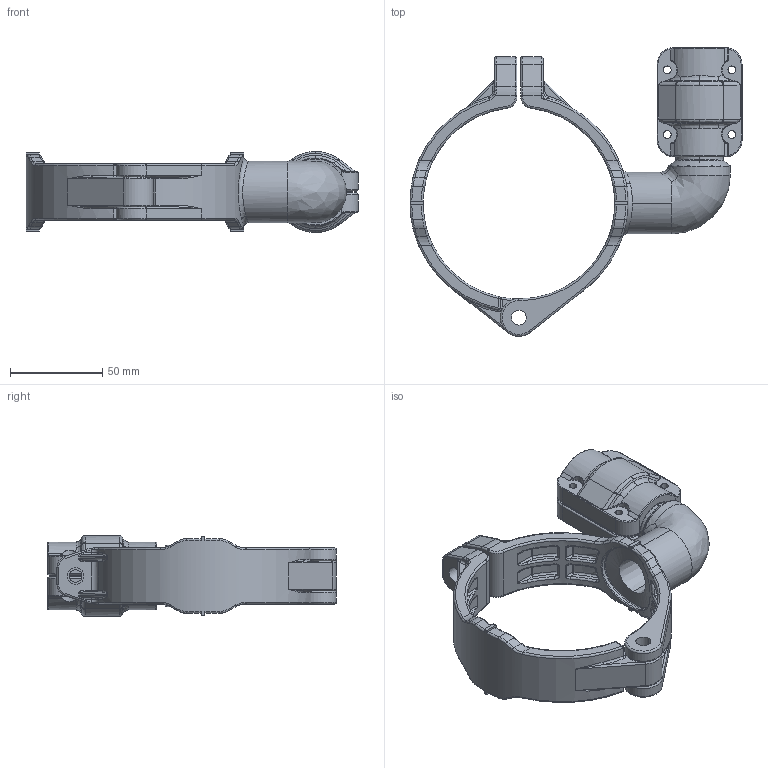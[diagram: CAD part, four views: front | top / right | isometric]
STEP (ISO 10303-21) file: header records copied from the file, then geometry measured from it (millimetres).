
FILE_DESCRIPTION((''),'2;1');
FILE_NAME('2015821099_ASM_3_ASM','2017-05-15T',('Administrator'),(''),'PRO/ENGINEER BY PARAMETRIC TECHNOLOGY CORPORATION, 2009360','PRO/ENGINEER BY PARAMETRIC TECHNOLOGY CORPORATION, 2009360','');
FILE_SCHEMA(('AUTOMOTIVE_DESIGN_CC2 { 1 2 10303 214 -1 1 5 2 }'));
Length unit declared in the file: millimetre
Products named in the file (8): 201782100001_1_2; 201782100000_1_1; 2017821000_ASM_4_ASM_1_ASM; 2017821000_ASM_ASM_1_ASM; 201520020000_23_1; 201520020001_10_1; 2015200200_ASM_1_ASM; 2015821099_ASM_3_ASM
Assembly tree (7 placements, depth 4):
  2015821099_ASM_3_ASM
    2017821000_ASM_ASM_1_ASM
      2017821000_ASM_4_ASM_1_ASM
        201782100001_1_2
        201782100000_1_1
    2015200200_ASM_1_ASM
      201520020000_23_1
      201520020001_10_1
Bounding box: 179.77 x 156.22 x 43.8 mm (x, y, z)
Volume: 170021.1 mm3; surface area: 67370.9 mm2
Topology: 4 solids, 4 shells, 1129 faces, 2728 edges, 1546 vertices
Faces by surface type: cylinder 359, bspline 337, torus 189, plane 162, sphere 76, cone 6
Entity records: 60235 total; most frequent: CARTESIAN_POINT 28582, ORIENTED_EDGE 5288, DIRECTION 4473, PRESENTATION_STYLE_ASSIGNMENT 2648, STYLED_ITEM 2648, CURVE_STYLE 2644, EDGE_CURVE 2644, AXIS2_PLACEMENT_3D 1917
